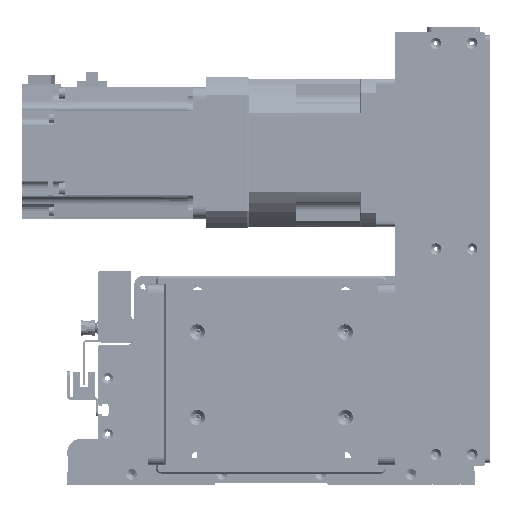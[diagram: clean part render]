
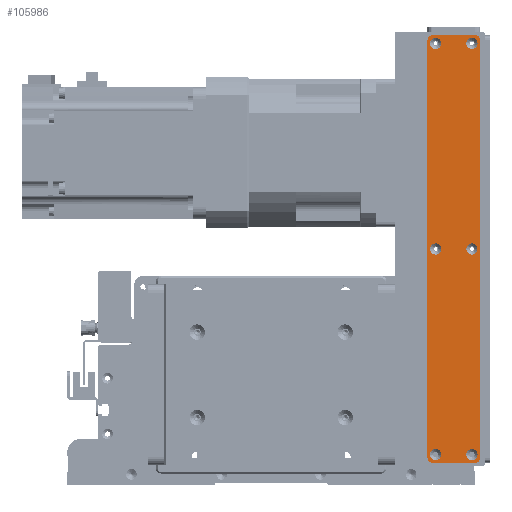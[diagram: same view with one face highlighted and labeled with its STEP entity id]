
A CAD part, front view. The second image highlights one B-rep face of the part: STEP entity #105986.
In plain terms, the highlighted planar face has unit normal (0, -1, 0).
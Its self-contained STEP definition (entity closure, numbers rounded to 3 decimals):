
#4204=FACE_BOUND('',#15989,.T.);
#4205=FACE_BOUND('',#15990,.T.);
#4206=FACE_BOUND('',#15991,.T.);
#4207=FACE_BOUND('',#15992,.T.);
#4208=FACE_BOUND('',#15993,.T.);
#4209=FACE_BOUND('',#15994,.T.);
#9660=FACE_OUTER_BOUND('',#15988,.T.);
#15988=EDGE_LOOP('',(#96578,#96579,#96580,#96581,#96582,#96583,#96584,#96585));
#15989=EDGE_LOOP('',(#96586));
#15990=EDGE_LOOP('',(#96587));
#15991=EDGE_LOOP('',(#96588));
#15992=EDGE_LOOP('',(#96589));
#15993=EDGE_LOOP('',(#96590));
#15994=EDGE_LOOP('',(#96591));
#18752=CIRCLE('',#115299,3.45);
#18755=CIRCLE('',#115304,3.45);
#18758=CIRCLE('',#115309,3.45);
#18761=CIRCLE('',#115314,3.45);
#18764=CIRCLE('',#115319,3.45);
#18767=CIRCLE('',#115324,3.45);
#18770=CIRCLE('',#115329,3.);
#18772=CIRCLE('',#115332,3.);
#18773=CIRCLE('',#115333,3.);
#18774=CIRCLE('',#115334,3.);
#30276=LINE('',#178803,#41788);
#30277=LINE('',#178807,#41789);
#30278=LINE('',#178811,#41790);
#30279=LINE('',#178814,#41791);
#41788=VECTOR('',#143991,10.);
#41789=VECTOR('',#143994,10.);
#41790=VECTOR('',#143997,10.);
#41791=VECTOR('',#144000,10.);
#51732=VERTEX_POINT('',#178733);
#51735=VERTEX_POINT('',#178743);
#51738=VERTEX_POINT('',#178753);
#51741=VERTEX_POINT('',#178763);
#51744=VERTEX_POINT('',#178773);
#51747=VERTEX_POINT('',#178783);
#51750=VERTEX_POINT('',#178793);
#51751=VERTEX_POINT('',#178794);
#51754=VERTEX_POINT('',#178802);
#51755=VERTEX_POINT('',#178804);
#51756=VERTEX_POINT('',#178806);
#51757=VERTEX_POINT('',#178808);
#51758=VERTEX_POINT('',#178810);
#51759=VERTEX_POINT('',#178812);
#66668=EDGE_CURVE('',#51732,#51732,#18752,.T.);
#66673=EDGE_CURVE('',#51735,#51735,#18755,.T.);
#66678=EDGE_CURVE('',#51738,#51738,#18758,.T.);
#66683=EDGE_CURVE('',#51741,#51741,#18761,.T.);
#66688=EDGE_CURVE('',#51744,#51744,#18764,.T.);
#66693=EDGE_CURVE('',#51747,#51747,#18767,.T.);
#66698=EDGE_CURVE('',#51750,#51751,#18770,.T.);
#66702=EDGE_CURVE('',#51750,#51754,#30276,.T.);
#66703=EDGE_CURVE('',#51755,#51754,#18772,.T.);
#66704=EDGE_CURVE('',#51755,#51756,#30277,.T.);
#66705=EDGE_CURVE('',#51757,#51756,#18773,.T.);
#66706=EDGE_CURVE('',#51757,#51758,#30278,.T.);
#66707=EDGE_CURVE('',#51759,#51758,#18774,.T.);
#66708=EDGE_CURVE('',#51759,#51751,#30279,.T.);
#96578=ORIENTED_EDGE('',*,*,#66698,.F.);
#96579=ORIENTED_EDGE('',*,*,#66702,.T.);
#96580=ORIENTED_EDGE('',*,*,#66703,.F.);
#96581=ORIENTED_EDGE('',*,*,#66704,.T.);
#96582=ORIENTED_EDGE('',*,*,#66705,.F.);
#96583=ORIENTED_EDGE('',*,*,#66706,.T.);
#96584=ORIENTED_EDGE('',*,*,#66707,.F.);
#96585=ORIENTED_EDGE('',*,*,#66708,.T.);
#96586=ORIENTED_EDGE('',*,*,#66668,.T.);
#96587=ORIENTED_EDGE('',*,*,#66673,.T.);
#96588=ORIENTED_EDGE('',*,*,#66678,.T.);
#96589=ORIENTED_EDGE('',*,*,#66683,.T.);
#96590=ORIENTED_EDGE('',*,*,#66688,.T.);
#96591=ORIENTED_EDGE('',*,*,#66693,.T.);
#100536=PLANE('',#115331);
#105986=ADVANCED_FACE('',(#9660,#4204,#4205,#4206,#4207,#4208,#4209),#100536,
 .T.);
#115299=AXIS2_PLACEMENT_3D('',#178734,#143911,#143912);
#115304=AXIS2_PLACEMENT_3D('',#178744,#143923,#143924);
#115309=AXIS2_PLACEMENT_3D('',#178754,#143935,#143936);
#115314=AXIS2_PLACEMENT_3D('',#178764,#143947,#143948);
#115319=AXIS2_PLACEMENT_3D('',#178774,#143959,#143960);
#115324=AXIS2_PLACEMENT_3D('',#178784,#143971,#143972);
#115329=AXIS2_PLACEMENT_3D('',#178795,#143983,#143984);
#115331=AXIS2_PLACEMENT_3D('',#178801,#143989,#143990);
#115332=AXIS2_PLACEMENT_3D('',#178805,#143992,#143993);
#115333=AXIS2_PLACEMENT_3D('',#178809,#143995,#143996);
#115334=AXIS2_PLACEMENT_3D('',#178813,#143998,#143999);
#143911=DIRECTION('center_axis',(0.,1.,0.));
#143912=DIRECTION('ref_axis',(1.,0.,0.));
#143923=DIRECTION('center_axis',(0.,1.,0.));
#143924=DIRECTION('ref_axis',(1.,0.,0.));
#143935=DIRECTION('center_axis',(0.,1.,0.));
#143936=DIRECTION('ref_axis',(1.,0.,0.));
#143947=DIRECTION('center_axis',(0.,1.,0.));
#143948=DIRECTION('ref_axis',(1.,0.,0.));
#143959=DIRECTION('center_axis',(0.,1.,0.));
#143960=DIRECTION('ref_axis',(1.,0.,0.));
#143971=DIRECTION('center_axis',(0.,1.,0.));
#143972=DIRECTION('ref_axis',(1.,0.,0.));
#143983=DIRECTION('center_axis',(0.,1.,0.));
#143984=DIRECTION('ref_axis',(-0.707,0.,0.707));
#143989=DIRECTION('center_axis',(0.,-1.,0.));
#143990=DIRECTION('ref_axis',(0.,0.,-1.));
#143991=DIRECTION('',(0.,0.,-1.));
#143992=DIRECTION('center_axis',(0.,1.,0.));
#143993=DIRECTION('ref_axis',(-0.707,0.,-0.707));
#143994=DIRECTION('',(1.,0.,0.));
#143995=DIRECTION('center_axis',(0.,1.,0.));
#143996=DIRECTION('ref_axis',(0.707,0.,-0.707));
#143997=DIRECTION('',(0.,0.,1.));
#143998=DIRECTION('center_axis',(0.,1.,0.));
#143999=DIRECTION('ref_axis',(0.707,0.,0.707));
#144000=DIRECTION('',(-1.,0.,0.));
#178733=CARTESIAN_POINT('',(121.55,-1.5,11.));
#178734=CARTESIAN_POINT('Origin',(125.,-1.5,11.));
#178743=CARTESIAN_POINT('',(-3.45,-1.5,11.));
#178744=CARTESIAN_POINT('Origin',(0.,-1.5,11.));
#178753=CARTESIAN_POINT('',(-128.45,-1.5,11.));
#178754=CARTESIAN_POINT('Origin',(-125.,-1.5,11.));
#178763=CARTESIAN_POINT('',(-128.45,-1.5,-11.));
#178764=CARTESIAN_POINT('Origin',(-125.,-1.5,-11.));
#178773=CARTESIAN_POINT('',(-3.45,-1.5,-11.));
#178774=CARTESIAN_POINT('Origin',(0.,-1.5,-11.));
#178783=CARTESIAN_POINT('',(121.55,-1.5,-11.));
#178784=CARTESIAN_POINT('Origin',(125.,-1.5,-11.));
#178793=CARTESIAN_POINT('',(-130.,-1.5,13.));
#178794=CARTESIAN_POINT('',(-127.,-1.5,16.));
#178795=CARTESIAN_POINT('Origin',(-127.,-1.5,13.));
#178801=CARTESIAN_POINT('Origin',(0.,-1.5,0.));
#178802=CARTESIAN_POINT('',(-130.,-1.5,-13.));
#178803=CARTESIAN_POINT('',(-130.,-1.5,16.));
#178804=CARTESIAN_POINT('',(-127.,-1.5,-16.));
#178805=CARTESIAN_POINT('Origin',(-127.,-1.5,-13.));
#178806=CARTESIAN_POINT('',(127.,-1.5,-16.));
#178807=CARTESIAN_POINT('',(-130.,-1.5,-16.));
#178808=CARTESIAN_POINT('',(130.,-1.5,-13.));
#178809=CARTESIAN_POINT('Origin',(127.,-1.5,-13.));
#178810=CARTESIAN_POINT('',(130.,-1.5,13.));
#178811=CARTESIAN_POINT('',(130.,-1.5,-16.));
#178812=CARTESIAN_POINT('',(127.,-1.5,16.));
#178813=CARTESIAN_POINT('Origin',(127.,-1.5,13.));
#178814=CARTESIAN_POINT('',(130.,-1.5,16.));
